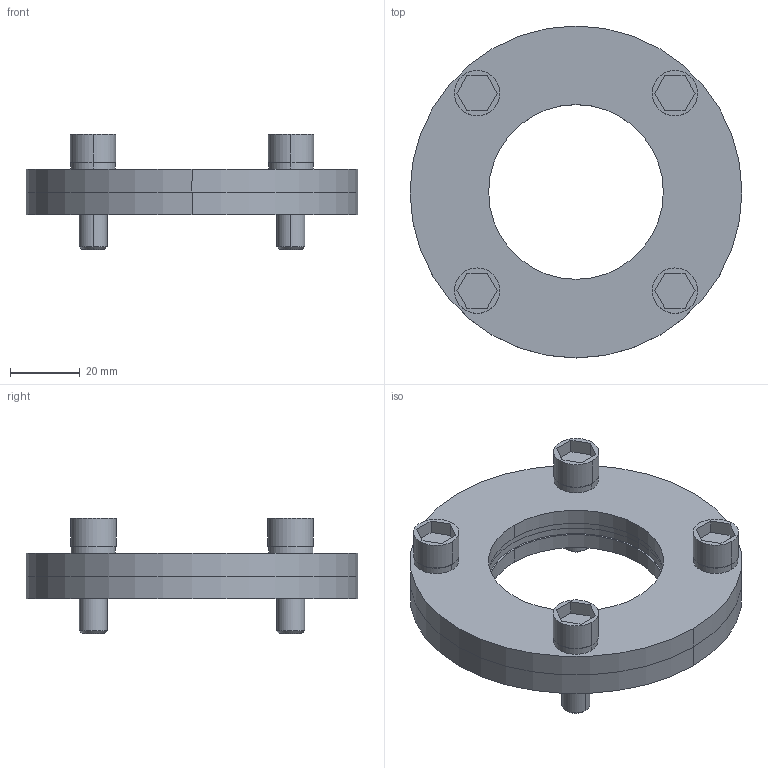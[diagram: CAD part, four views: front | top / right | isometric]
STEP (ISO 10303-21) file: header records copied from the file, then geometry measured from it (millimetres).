
FILE_DESCRIPTION(/* description */ (''),/* implementation_level */ '2;1');
FILE_NAME(/* name */ '3d_kf50_04240_r00.stp',/* time_stamp */ '2011-01-10T14:14:23+09:00',/* author */ ('MISUMI'),/* organization */ (''),/* preprocessor_version */ 'ST-DEVELOPER v11',/* originating_system */ 'UGS - NX 5.0',/* authorisation */ '');
FILE_SCHEMA (('CONFIG_CONTROL_DESIGN'));
Length unit declared in the file: millimetre
Products named in the file (1): 3d_kf50_04240_r00
Bounding box: 95 x 95 x 33 mm (x, y, z)
Volume: 71455.5 mm3; surface area: 33395.5 mm2
Topology: 10 solids, 10 shells, 122 faces, 268 edges, 176 vertices
Faces by surface type: cylinder 60, plane 54, cone 8
Entity records: 3520 total; most frequent: DIRECTION 642, CARTESIAN_POINT 567, ORIENTED_EDGE 536, EDGE_CURVE 268, AXIS2_PLACEMENT_3D 251, VERTEX_POINT 176, EDGE_LOOP 160, LINE 140
